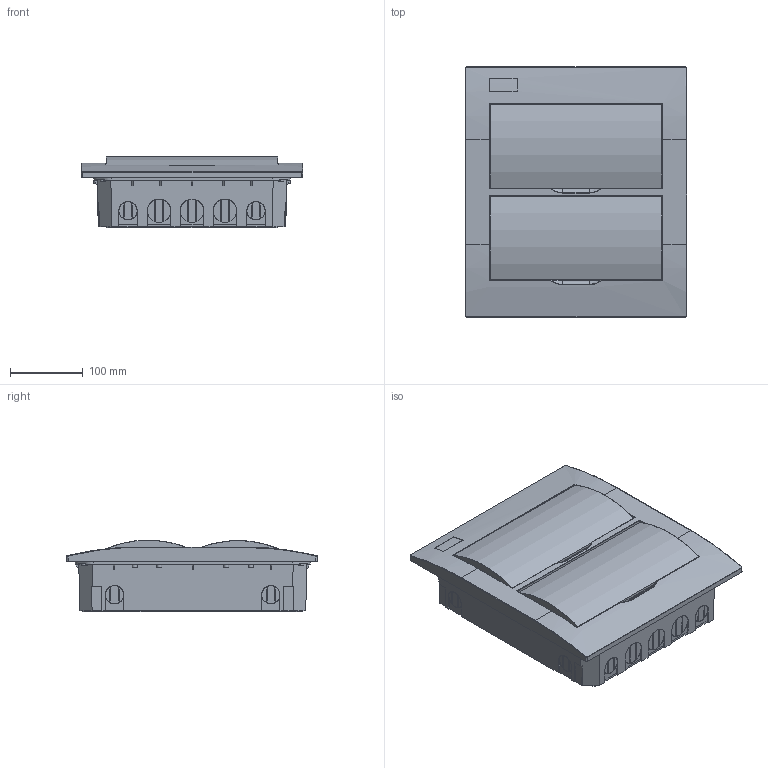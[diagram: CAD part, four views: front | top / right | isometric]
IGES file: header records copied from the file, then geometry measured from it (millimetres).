
Start section: SolidWorks IGES file using analytic representation for surfaces
Global section: file name: Q:\GROUPS\BR_SC_JGS_WA_TECNICO\ENG\Usuarios\Rodrigob\conversão\Chave de Partida\Produto\QDW\QDW02-E\QDW02-24-E\QDW02-24-E.IGS; native system: SolidWorks 2012; preprocessor: SolidWorks 2012; author: rodrigob; date: 140320.092146; units: millimetre
Bounding box: 304 x 344 x 98.54 mm (x, y, z)
Surface area: 846864.6 mm2 (no closed solid volume)
Topology: 0 solids, 0 shells, 2023 faces, 21139 edges, 21134 vertices
Faces by surface type: bspline 1483, revolution 540
